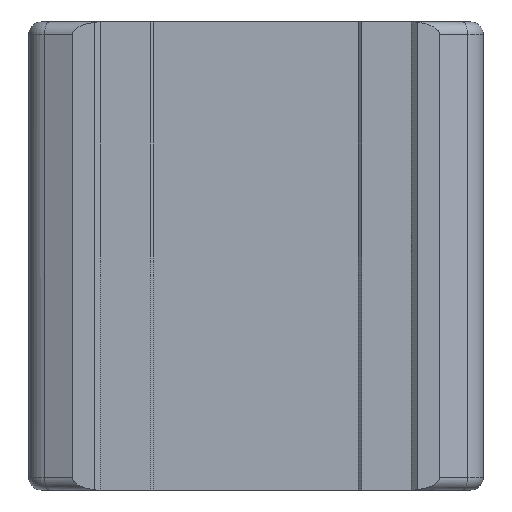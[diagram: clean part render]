
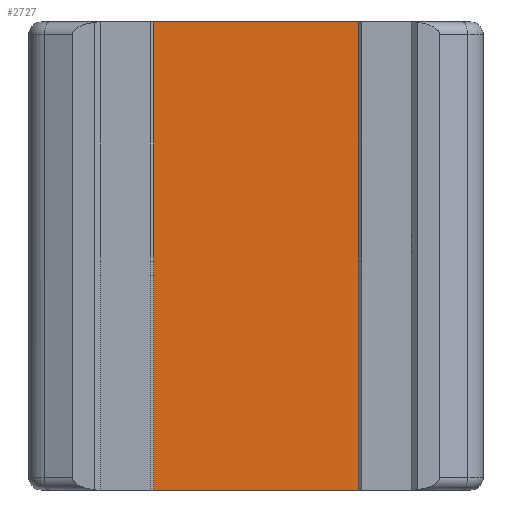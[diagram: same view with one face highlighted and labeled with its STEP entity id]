
A CAD part, front view. The second image highlights one B-rep face of the part: STEP entity #2727.
In plain terms, the highlighted planar face has unit normal (0, -1, 0).
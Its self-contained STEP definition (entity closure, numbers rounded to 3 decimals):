
#101 = ORIENTED_EDGE ( 'NONE', *, *, #2290, .T. ) ;
#138 = ORIENTED_EDGE ( 'NONE', *, *, #1072, .T. ) ;
#541 = CARTESIAN_POINT ( 'NONE',  ( -23.7, -5., -76.525 ) ) ;
#812 = DIRECTION ( 'NONE',  ( 0., 0., 1. ) ) ;
#988 = VERTEX_POINT ( 'NONE', #3695 ) ;
#1059 = LINE ( 'NONE', #4069, #2105 ) ;
#1072 = EDGE_CURVE ( 'NONE', #1111, #988, #4839, .T. ) ;
#1111 = VERTEX_POINT ( 'NONE', #2303 ) ;
#1743 = DIRECTION ( 'NONE',  ( 0., 0., 1. ) ) ;
#1953 = PLANE ( 'NONE',  #4947 ) ;
#2011 = DIRECTION ( 'NONE',  ( 0., -1., 0. ) ) ;
#2105 = VECTOR ( 'NONE', #3119, 1000. ) ;
#2219 = LINE ( 'NONE', #6227, #4220 ) ;
#2290 = EDGE_CURVE ( 'NONE', #2820, #1111, #1059, .T. ) ;
#2303 = CARTESIAN_POINT ( 'NONE',  ( -7.1, -5., -38. ) ) ;
#2620 = DIRECTION ( 'NONE',  ( 1., 0., 0. ) ) ;
#2727 = ADVANCED_FACE ( 'NONE', ( #4507 ), #1953, .T. ) ;
#2820 = VERTEX_POINT ( 'NONE', #5228 ) ;
#2855 = ORIENTED_EDGE ( 'NONE', *, *, #3070, .F. ) ;
#3070 = EDGE_CURVE ( 'NONE', #3159, #988, #4043, .T. ) ;
#3119 = DIRECTION ( 'NONE',  ( 1., 0., 0. ) ) ;
#3159 = VERTEX_POINT ( 'NONE', #6133 ) ;
#3232 = EDGE_CURVE ( 'NONE', #2820, #3159, #2219, .T. ) ;
#3241 = ORIENTED_EDGE ( 'NONE', *, *, #3232, .F. ) ;
#3347 = VECTOR ( 'NONE', #812, 1000. ) ;
#3457 = DIRECTION ( 'NONE',  ( 0., 0., -1. ) ) ;
#3584 = VECTOR ( 'NONE', #2620, 1000. ) ;
#3695 = CARTESIAN_POINT ( 'NONE',  ( -7.1, -5., 0. ) ) ;
#4043 = LINE ( 'NONE', #5125, #3584 ) ;
#4069 = CARTESIAN_POINT ( 'NONE',  ( -23.7, -5., -38. ) ) ;
#4220 = VECTOR ( 'NONE', #1743, 1000. ) ;
#4507 = FACE_OUTER_BOUND ( 'NONE', #5949, .T. ) ;
#4839 = LINE ( 'NONE', #5758, #3347 ) ;
#4947 = AXIS2_PLACEMENT_3D ( 'NONE', #541, #2011, #3457 ) ;
#5125 = CARTESIAN_POINT ( 'NONE',  ( -23.7, -5., 0. ) ) ;
#5228 = CARTESIAN_POINT ( 'NONE',  ( -23.7, -5., -38. ) ) ;
#5758 = CARTESIAN_POINT ( 'NONE',  ( -7.1, -5., -76.525 ) ) ;
#5949 = EDGE_LOOP ( 'NONE', ( #3241, #101, #138, #2855 ) ) ;
#6133 = CARTESIAN_POINT ( 'NONE',  ( -23.7, -5., 0. ) ) ;
#6227 = CARTESIAN_POINT ( 'NONE',  ( -23.7, -5., -76.525 ) ) ;
